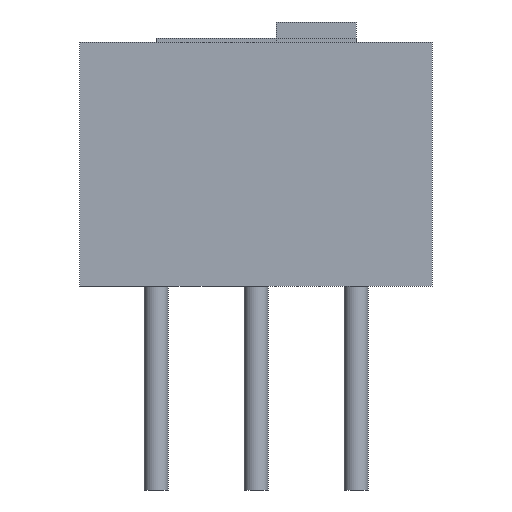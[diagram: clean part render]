
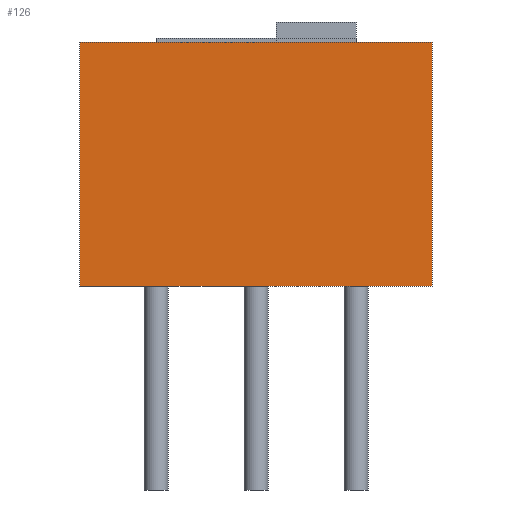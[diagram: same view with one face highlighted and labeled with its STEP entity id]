
A CAD part, front view. The second image highlights one B-rep face of the part: STEP entity #126.
In plain terms, the highlighted planar face has unit normal (0, -1, 0).
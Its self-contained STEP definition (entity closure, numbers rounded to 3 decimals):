
#101 = VERTEX_POINT('',#102);
#102 = CARTESIAN_POINT('',(6.9,-1.95,6.2));
#108 = EDGE_CURVE('',#109,#101,#111,.T.);
#109 = VERTEX_POINT('',#110);
#110 = CARTESIAN_POINT('',(6.9,-1.95,0.1));
#111 = LINE('',#112,#113);
#112 = CARTESIAN_POINT('',(6.9,-1.95,0.1));
#113 = VECTOR('',#114,1.);
#114 = DIRECTION('',(0.,0.,1.));
#126 = ADVANCED_FACE('',(#127),#152,.T.);
#127 = FACE_BOUND('',#128,.T.);
#128 = EDGE_LOOP('',(#129,#130,#138,#146));
#129 = ORIENTED_EDGE('',*,*,#108,.T.);
#130 = ORIENTED_EDGE('',*,*,#131,.T.);
#131 = EDGE_CURVE('',#101,#132,#134,.T.);
#132 = VERTEX_POINT('',#133);
#133 = CARTESIAN_POINT('',(-1.9,-1.95,6.2));
#134 = LINE('',#135,#136);
#135 = CARTESIAN_POINT('',(6.9,-1.95,6.2));
#136 = VECTOR('',#137,1.);
#137 = DIRECTION('',(-1.,0.,0.));
#138 = ORIENTED_EDGE('',*,*,#139,.F.);
#139 = EDGE_CURVE('',#140,#132,#142,.T.);
#140 = VERTEX_POINT('',#141);
#141 = CARTESIAN_POINT('',(-1.9,-1.95,0.1));
#142 = LINE('',#143,#144);
#143 = CARTESIAN_POINT('',(-1.9,-1.95,0.1));
#144 = VECTOR('',#145,1.);
#145 = DIRECTION('',(0.,0.,1.));
#146 = ORIENTED_EDGE('',*,*,#147,.F.);
#147 = EDGE_CURVE('',#109,#140,#148,.T.);
#148 = LINE('',#149,#150);
#149 = CARTESIAN_POINT('',(6.9,-1.95,0.1));
#150 = VECTOR('',#151,1.);
#151 = DIRECTION('',(-1.,0.,0.));
#152 = PLANE('',#153);
#153 = AXIS2_PLACEMENT_3D('',#154,#155,#156);
#154 = CARTESIAN_POINT('',(6.9,-1.95,0.1));
#155 = DIRECTION('',(0.,-1.,0.));
#156 = DIRECTION('',(-1.,0.,0.));
